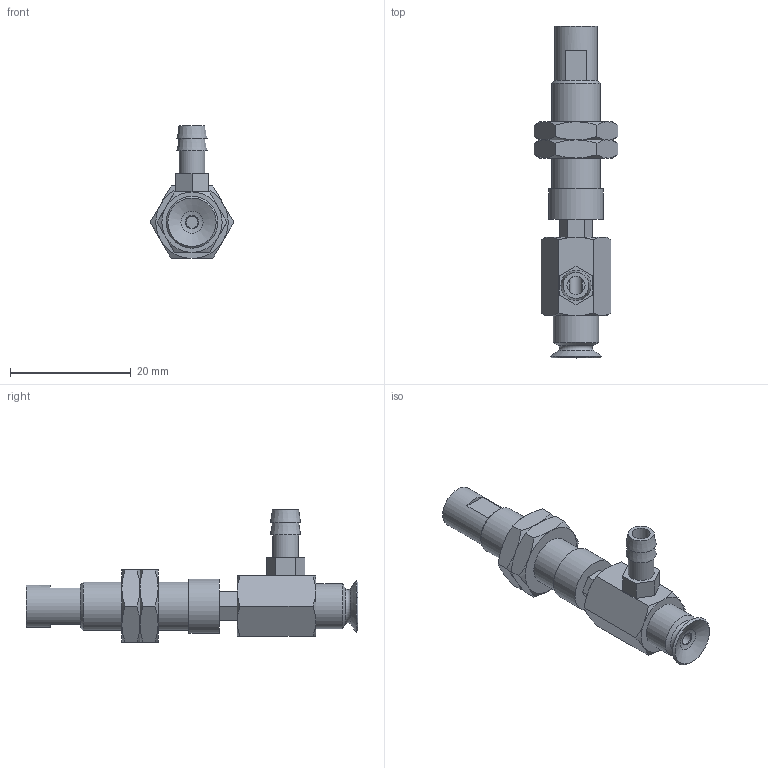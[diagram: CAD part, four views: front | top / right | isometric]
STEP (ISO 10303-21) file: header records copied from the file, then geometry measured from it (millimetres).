
FILE_DESCRIPTION(('STEP AP203'),'1');
FILE_NAME('-T.stp','2025-04-10T03:08:33',(' '),(' '),'Spatial InterOp 3D',' ',' ');
FILE_SCHEMA(('CONFIG_CONTROL_DESIGN'));
Length unit declared in the file: millimetre
Products named in the file (7): BNABPFYH-8A-3-※-T; CONNECTOR-H-8A-3; Nut-8A-3-h; NAPFTH-8A-3-FBODY; NAPFTH-8A-3-MBODY; BPFG-8A-※; T
Assembly tree (7 placements, depth 2):
  BNABPFYH-8A-3-※-T
    CONNECTOR-H-8A-3
    Nut-8A-3-h  x2
    NAPFTH-8A-3-FBODY
    NAPFTH-8A-3-MBODY
    BPFG-8A-※
    T
Bounding box: 13.86 x 55 x 22 mm (x, y, z)
Volume: 3449.2 mm3; surface area: 4391.6 mm2
Topology: 7 solids, 7 shells, 157 faces, 337 edges, 206 vertices
Faces by surface type: plane 74, cone 54, cylinder 18, torus 10, bspline 1
Full cylindrical faces by diameter (mm): 2 x2, 3 x1, 4 x2, 4.134 x2, 4.3 x1, 5 x2, 6 x2, 7 x1, 7.188 x2, 7.5 x1, 8 x1, 9 x1
Entity records: 3949 total; most frequent: CARTESIAN_POINT 925, DIRECTION 556, ORIENTED_EDGE 476, EDGE_CURVE 238, AXIS2_PLACEMENT_3D 231, EDGE_LOOP 200, VERTEX_POINT 170, FACE_OUTER_BOUND 162
